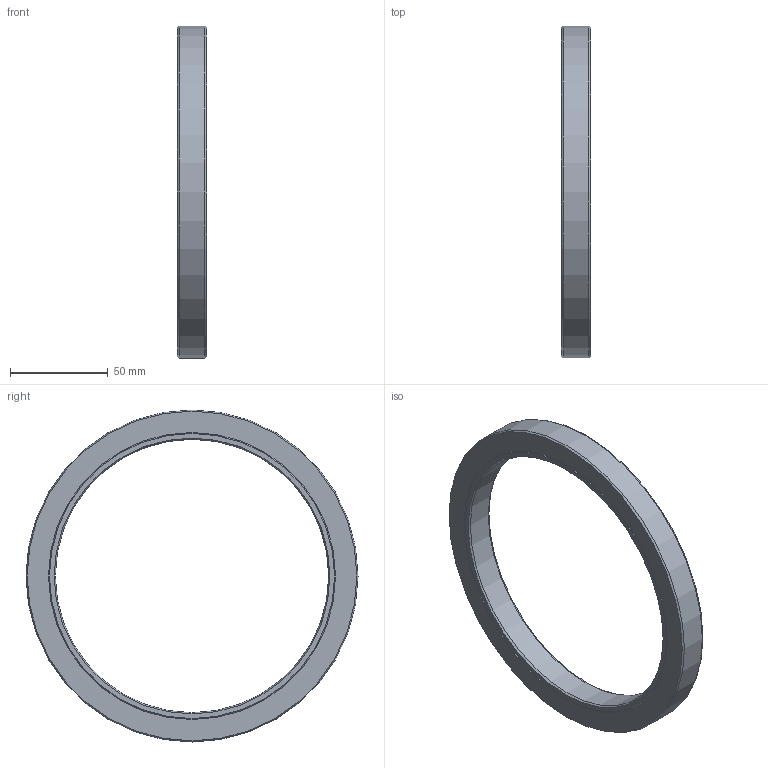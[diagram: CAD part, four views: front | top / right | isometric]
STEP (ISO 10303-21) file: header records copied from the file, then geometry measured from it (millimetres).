
FILE_DESCRIPTION(/* description */ (''),/* implementation_level */ '2;1');
FILE_NAME(/* name */ '302019 SA 140x170x15.stp',/* time_stamp */ '2016-12-16T15:56:25+01:00',/* author */ (''),/* organization */ (''),/* preprocessor_version */ 'ST-DEVELOPER v15',/* originating_system */ 'SIEMENS PLM Software NX 8.5',/* authorisation */ '');
FILE_SCHEMA (('CONFIG_CONTROL_DESIGN'));
Length unit declared in the file: millimetre
Products named in the file (1): ATE0000144_01
Bounding box: 15 x 170 x 170 mm (x, y, z)
Volume: 105136.1 mm3; surface area: 46067.5 mm2
Topology: 2 solids, 2 shells, 18 faces, 37 edges, 23 vertices
Faces by surface type: cone 10, plane 5, cylinder 3
Full cylindrical faces by diameter (mm): 140 x1, 170 x1
Entity records: 496 total; most frequent: CARTESIAN_POINT 78, DIRECTION 76, ORIENTED_EDGE 46, AXIS2_PLACEMENT_3D 38, EDGE_LOOP 33, FACE_BOUND 30, EDGE_CURVE 23, VERTEX_POINT 20
